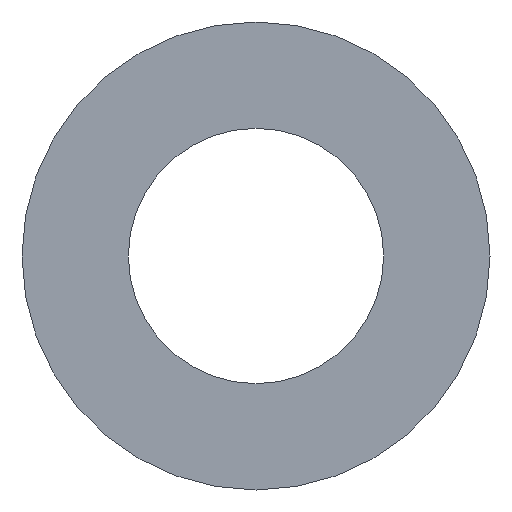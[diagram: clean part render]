
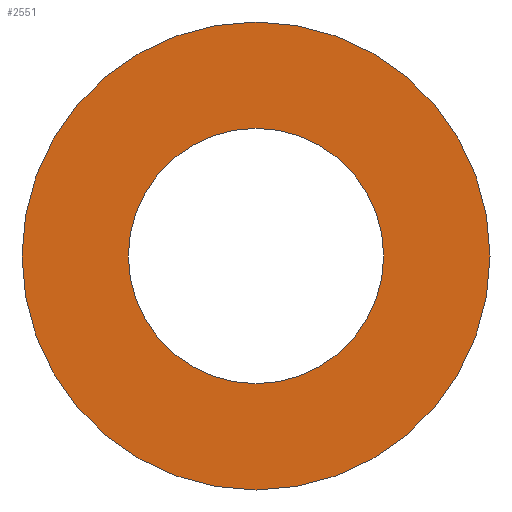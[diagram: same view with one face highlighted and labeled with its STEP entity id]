
A CAD part, front view. The second image highlights one B-rep face of the part: STEP entity #2551.
In plain terms, the highlighted planar face has unit normal (0, -1, 0).
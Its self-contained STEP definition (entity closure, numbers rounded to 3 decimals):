
#12 = CARTESIAN_POINT ( 'NONE',  ( 0., -15.5, 0. ) ) ;
#19 = PLANE ( 'NONE',  #1680 ) ;
#68 = AXIS2_PLACEMENT_3D ( 'NONE', #1536, #1346, #1779 ) ;
#123 = CARTESIAN_POINT ( 'NONE',  ( 0., -15.5, 27.5 ) ) ;
#140 = VERTEX_POINT ( 'NONE', #123 ) ;
#263 = CIRCLE ( 'NONE', #1661, 15. ) ;
#294 = DIRECTION ( 'NONE',  ( 0., -1., 0. ) ) ;
#395 = EDGE_LOOP ( 'NONE', ( #702, #1876 ) ) ;
#435 = CIRCLE ( 'NONE', #68, 27.5 ) ;
#445 = EDGE_CURVE ( 'NONE', #1206, #140, #435, .T. ) ;
#516 = CARTESIAN_POINT ( 'NONE',  ( 0., -15.5, 0. ) ) ;
#561 = FACE_OUTER_BOUND ( 'NONE', #395, .T. ) ;
#578 = ORIENTED_EDGE ( 'NONE', *, *, #1047, .F. ) ;
#638 = CARTESIAN_POINT ( 'NONE',  ( 0., -15.5, -15. ) ) ;
#663 = ORIENTED_EDGE ( 'NONE', *, *, #1896, .F. ) ;
#702 = ORIENTED_EDGE ( 'NONE', *, *, #445, .T. ) ;
#731 = AXIS2_PLACEMENT_3D ( 'NONE', #12, #1580, #1341 ) ;
#921 = DIRECTION ( 'NONE',  ( 0., 1., 0. ) ) ;
#1025 = CIRCLE ( 'NONE', #2278, 27.5 ) ;
#1047 = EDGE_CURVE ( 'NONE', #2438, #1713, #263, .T. ) ;
#1092 = FACE_BOUND ( 'NONE', #1574, .T. ) ;
#1190 = DIRECTION ( 'NONE',  ( 0., 0., -1. ) ) ;
#1202 = CARTESIAN_POINT ( 'NONE',  ( 0., -15.5, 0. ) ) ;
#1206 = VERTEX_POINT ( 'NONE', #1255 ) ;
#1255 = CARTESIAN_POINT ( 'NONE',  ( 0., -15.5, -27.5 ) ) ;
#1341 = DIRECTION ( 'NONE',  ( 0., 0., -1. ) ) ;
#1346 = DIRECTION ( 'NONE',  ( 0., -1., 0. ) ) ;
#1393 = DIRECTION ( 'NONE',  ( 0., 0., 1. ) ) ;
#1429 = DIRECTION ( 'NONE',  ( 0., 0., -1. ) ) ;
#1536 = CARTESIAN_POINT ( 'NONE',  ( 0., -15.5, 0. ) ) ;
#1574 = EDGE_LOOP ( 'NONE', ( #663, #578 ) ) ;
#1580 = DIRECTION ( 'NONE',  ( 0., -1., 0. ) ) ;
#1661 = AXIS2_PLACEMENT_3D ( 'NONE', #1202, #294, #1190 ) ;
#1680 = AXIS2_PLACEMENT_3D ( 'NONE', #2268, #921, #1393 ) ;
#1713 = VERTEX_POINT ( 'NONE', #638 ) ;
#1779 = DIRECTION ( 'NONE',  ( 0., 0., -1. ) ) ;
#1876 = ORIENTED_EDGE ( 'NONE', *, *, #2578, .T. ) ;
#1896 = EDGE_CURVE ( 'NONE', #1713, #2438, #1963, .T. ) ;
#1963 = CIRCLE ( 'NONE', #731, 15. ) ;
#2000 = CARTESIAN_POINT ( 'NONE',  ( 0., -15.5, 15. ) ) ;
#2268 = CARTESIAN_POINT ( 'NONE',  ( 0., -15.5, 15. ) ) ;
#2278 = AXIS2_PLACEMENT_3D ( 'NONE', #516, #2755, #1429 ) ;
#2438 = VERTEX_POINT ( 'NONE', #2000 ) ;
#2551 = ADVANCED_FACE ( 'NONE', ( #1092, #561 ), #19, .F. ) ;
#2578 = EDGE_CURVE ( 'NONE', #140, #1206, #1025, .T. ) ;
#2755 = DIRECTION ( 'NONE',  ( 0., -1., 0. ) ) ;
